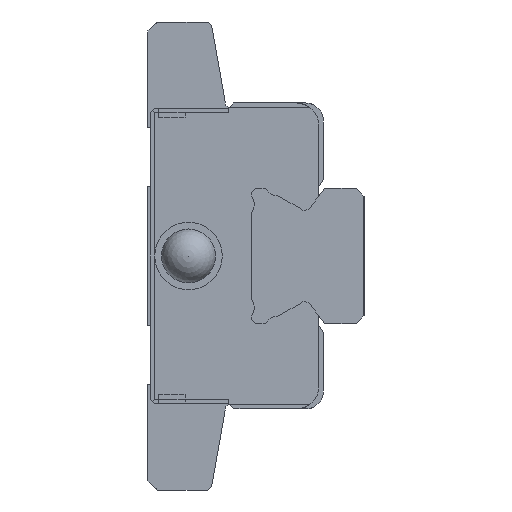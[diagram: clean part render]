
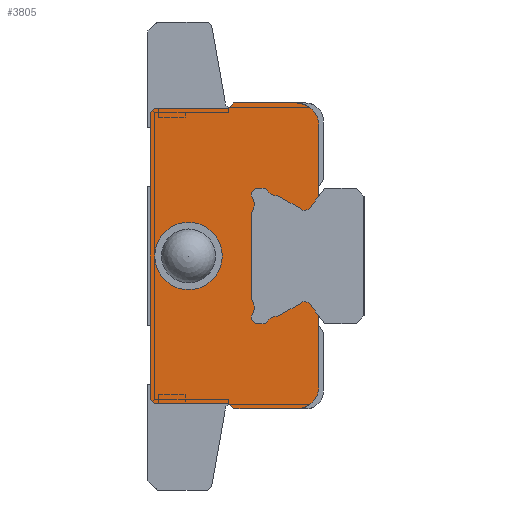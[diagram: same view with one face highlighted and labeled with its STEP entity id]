
A CAD part, left-side view. The second image highlights one B-rep face of the part: STEP entity #3805.
In plain terms, the highlighted planar face has unit normal (-1, 0, 0).
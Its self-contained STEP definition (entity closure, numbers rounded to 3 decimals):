
#51=LINE('',#5633,#407);
#92=LINE('',#5725,#448);
#102=LINE('',#5750,#458);
#128=LINE('',#5800,#484);
#131=LINE('',#5805,#487);
#133=LINE('',#5808,#489);
#152=LINE('',#5864,#508);
#153=LINE('',#5869,#509);
#154=LINE('',#5873,#510);
#155=LINE('',#5875,#511);
#156=LINE('',#5877,#512);
#157=LINE('',#5879,#513);
#158=LINE('',#5883,#514);
#159=LINE('',#5887,#515);
#160=LINE('',#5889,#516);
#161=LINE('',#5891,#517);
#162=LINE('',#5893,#518);
#163=LINE('',#5897,#519);
#164=LINE('',#5901,#520);
#165=LINE('',#5903,#521);
#166=LINE('',#5907,#522);
#167=LINE('',#5909,#523);
#168=LINE('',#5910,#524);
#169=LINE('',#5913,#525);
#407=VECTOR('',#4480,1000.);
#448=VECTOR('',#4545,1000.);
#458=VECTOR('',#4565,1000.);
#484=VECTOR('',#4603,1000.);
#487=VECTOR('',#4608,1000.);
#489=VECTOR('',#4612,1000.);
#508=VECTOR('',#4663,1000.);
#509=VECTOR('',#4666,1000.);
#510=VECTOR('',#4669,1000.);
#511=VECTOR('',#4670,1000.);
#512=VECTOR('',#4671,1000.);
#513=VECTOR('',#4672,1000.);
#514=VECTOR('',#4675,1000.);
#515=VECTOR('',#4678,1000.);
#516=VECTOR('',#4679,1000.);
#517=VECTOR('',#4680,1000.);
#518=VECTOR('',#4681,1000.);
#519=VECTOR('',#4684,1000.);
#520=VECTOR('',#4687,1000.);
#521=VECTOR('',#4688,1000.);
#522=VECTOR('',#4691,1000.);
#523=VECTOR('',#4692,1000.);
#524=VECTOR('',#4693,1000.);
#525=VECTOR('',#4696,1000.);
#796=PLANE('',#4086);
#1158=ORIENTED_EDGE('',*,*,#2176,.T.);
#1159=ORIENTED_EDGE('',*,*,#2177,.F.);
#1160=ORIENTED_EDGE('',*,*,#2178,.T.);
#1161=ORIENTED_EDGE('',*,*,#2179,.F.);
#1162=ORIENTED_EDGE('',*,*,#2180,.T.);
#1163=ORIENTED_EDGE('',*,*,#2181,.F.);
#1164=ORIENTED_EDGE('',*,*,#2182,.F.);
#1165=ORIENTED_EDGE('',*,*,#2183,.F.);
#1166=ORIENTED_EDGE('',*,*,#2184,.F.);
#1167=ORIENTED_EDGE('',*,*,#2185,.T.);
#1168=ORIENTED_EDGE('',*,*,#2186,.F.);
#1169=ORIENTED_EDGE('',*,*,#2187,.T.);
#1170=ORIENTED_EDGE('',*,*,#2188,.F.);
#1171=ORIENTED_EDGE('',*,*,#2189,.F.);
#1172=ORIENTED_EDGE('',*,*,#2190,.F.);
#1173=ORIENTED_EDGE('',*,*,#2191,.F.);
#1174=ORIENTED_EDGE('',*,*,#2192,.T.);
#1175=ORIENTED_EDGE('',*,*,#2193,.F.);
#1176=ORIENTED_EDGE('',*,*,#2194,.T.);
#1177=ORIENTED_EDGE('',*,*,#2195,.F.);
#1178=ORIENTED_EDGE('',*,*,#2196,.F.);
#1179=ORIENTED_EDGE('',*,*,#2197,.F.);
#1180=ORIENTED_EDGE('',*,*,#2198,.F.);
#1181=ORIENTED_EDGE('',*,*,#2199,.F.);
#1182=ORIENTED_EDGE('',*,*,#2118,.F.);
#1183=ORIENTED_EDGE('',*,*,#2149,.F.);
#1184=ORIENTED_EDGE('',*,*,#2144,.F.);
#1185=ORIENTED_EDGE('',*,*,#2147,.F.);
#1186=ORIENTED_EDGE('',*,*,#2106,.F.);
#1187=ORIENTED_EDGE('',*,*,#2200,.F.);
#1188=ORIENTED_EDGE('',*,*,#2063,.F.);
#1189=ORIENTED_EDGE('',*,*,#2201,.F.);
#1190=ORIENTED_EDGE('',*,*,#2202,.F.);
#2063=EDGE_CURVE('',#2589,#2587,#51,.T.);
#2106=EDGE_CURVE('',#2628,#2629,#92,.T.);
#2118=EDGE_CURVE('',#2638,#2639,#102,.T.);
#2144=EDGE_CURVE('',#2656,#2657,#128,.T.);
#2147=EDGE_CURVE('',#2629,#2656,#131,.T.);
#2149=EDGE_CURVE('',#2657,#2638,#133,.T.);
#2176=EDGE_CURVE('',#2678,#2678,#2960,.T.);
#2177=EDGE_CURVE('',#2679,#2680,#152,.T.);
#2178=EDGE_CURVE('',#2679,#2681,#2961,.F.);
#2179=EDGE_CURVE('',#2682,#2681,#153,.T.);
#2180=EDGE_CURVE('',#2682,#2683,#2962,.F.);
#2181=EDGE_CURVE('',#2684,#2683,#154,.T.);
#2182=EDGE_CURVE('',#2685,#2684,#155,.T.);
#2183=EDGE_CURVE('',#2686,#2685,#156,.T.);
#2184=EDGE_CURVE('',#2687,#2686,#157,.T.);
#2185=EDGE_CURVE('',#2687,#2688,#2963,.F.);
#2186=EDGE_CURVE('',#2689,#2688,#158,.T.);
#2187=EDGE_CURVE('',#2689,#2690,#2964,.F.);
#2188=EDGE_CURVE('',#2691,#2690,#159,.T.);
#2189=EDGE_CURVE('',#2692,#2691,#160,.T.);
#2190=EDGE_CURVE('',#2693,#2692,#161,.T.);
#2191=EDGE_CURVE('',#2694,#2693,#162,.T.);
#2192=EDGE_CURVE('',#2694,#2695,#2965,.F.);
#2193=EDGE_CURVE('',#2696,#2695,#163,.T.);
#2194=EDGE_CURVE('',#2696,#2697,#2966,.F.);
#2195=EDGE_CURVE('',#2698,#2697,#164,.T.);
#2196=EDGE_CURVE('',#2699,#2698,#165,.T.);
#2197=EDGE_CURVE('',#2700,#2699,#2967,.T.);
#2198=EDGE_CURVE('',#2701,#2700,#166,.T.);
#2199=EDGE_CURVE('',#2639,#2701,#167,.T.);
#2200=EDGE_CURVE('',#2587,#2628,#168,.T.);
#2201=EDGE_CURVE('',#2702,#2589,#2968,.T.);
#2202=EDGE_CURVE('',#2680,#2702,#169,.T.);
#2587=VERTEX_POINT('',#5628);
#2589=VERTEX_POINT('',#5632);
#2628=VERTEX_POINT('',#5724);
#2629=VERTEX_POINT('',#5726);
#2638=VERTEX_POINT('',#5749);
#2639=VERTEX_POINT('',#5751);
#2656=VERTEX_POINT('',#5799);
#2657=VERTEX_POINT('',#5801);
#2678=VERTEX_POINT('',#5863);
#2679=VERTEX_POINT('',#5865);
#2680=VERTEX_POINT('',#5866);
#2681=VERTEX_POINT('',#5868);
#2682=VERTEX_POINT('',#5870);
#2683=VERTEX_POINT('',#5872);
#2684=VERTEX_POINT('',#5874);
#2685=VERTEX_POINT('',#5876);
#2686=VERTEX_POINT('',#5878);
#2687=VERTEX_POINT('',#5880);
#2688=VERTEX_POINT('',#5882);
#2689=VERTEX_POINT('',#5884);
#2690=VERTEX_POINT('',#5886);
#2691=VERTEX_POINT('',#5888);
#2692=VERTEX_POINT('',#5890);
#2693=VERTEX_POINT('',#5892);
#2694=VERTEX_POINT('',#5894);
#2695=VERTEX_POINT('',#5896);
#2696=VERTEX_POINT('',#5898);
#2697=VERTEX_POINT('',#5900);
#2698=VERTEX_POINT('',#5902);
#2699=VERTEX_POINT('',#5904);
#2700=VERTEX_POINT('',#5906);
#2701=VERTEX_POINT('',#5908);
#2702=VERTEX_POINT('',#5912);
#2960=CIRCLE('',#4087,2.);
#2961=CIRCLE('',#4088,0.7);
#2962=CIRCLE('',#4089,1.45);
#2963=CIRCLE('',#4090,1.45);
#2964=CIRCLE('',#4091,1.45);
#2965=CIRCLE('',#4092,1.45);
#2966=CIRCLE('',#4093,0.7);
#2967=CIRCLE('',#4094,2.5);
#2968=CIRCLE('',#4095,2.5);
#3146=EDGE_LOOP('',(#1158));
#3147=EDGE_LOOP('',(#1159,#1160,#1161,#1162,#1163,#1164,#1165,#1166,#1167,
#1168,#1169,#1170,#1171,#1172,#1173,#1174,#1175,#1176,#1177,#1178,#1179,
#1180,#1181,#1182,#1183,#1184,#1185,#1186,#1187,#1188,#1189,#1190));
#3480=FACE_BOUND('',#3146,.T.);
#3481=FACE_BOUND('',#3147,.T.);
#3805=ADVANCED_FACE('',(#3480,#3481),#796,.F.);
#4086=AXIS2_PLACEMENT_3D('',#5861,#4659,#4660);
#4087=AXIS2_PLACEMENT_3D('',#5862,#4661,#4662);
#4088=AXIS2_PLACEMENT_3D('',#5867,#4664,#4665);
#4089=AXIS2_PLACEMENT_3D('',#5871,#4667,#4668);
#4090=AXIS2_PLACEMENT_3D('',#5881,#4673,#4674);
#4091=AXIS2_PLACEMENT_3D('',#5885,#4676,#4677);
#4092=AXIS2_PLACEMENT_3D('',#5895,#4682,#4683);
#4093=AXIS2_PLACEMENT_3D('',#5899,#4685,#4686);
#4094=AXIS2_PLACEMENT_3D('',#5905,#4689,#4690);
#4095=AXIS2_PLACEMENT_3D('',#5911,#4694,#4695);
#4480=DIRECTION('',(0.,1.,0.));
#4545=DIRECTION('',(0.,1.,0.));
#4565=DIRECTION('',(0.,-1.,0.));
#4603=DIRECTION('',(0.,0.,1.));
#4608=DIRECTION('',(0.,0.707,0.707));
#4612=DIRECTION('',(0.,-0.707,0.707));
#4659=DIRECTION('',(1.,0.,0.));
#4660=DIRECTION('',(0.,0.,-1.));
#4661=DIRECTION('',(1.,0.,0.));
#4662=DIRECTION('',(0.,0.,-1.));
#4663=DIRECTION('',(0.,-0.607,-0.794));
#4664=DIRECTION('',(1.,0.,0.));
#4665=DIRECTION('',(0.,0.,-1.));
#4666=DIRECTION('',(0.,-0.869,0.495));
#4667=DIRECTION('',(1.,0.,0.));
#4668=DIRECTION('',(0.,0.,-1.));
#4669=DIRECTION('',(0.,-0.869,0.495));
#4670=DIRECTION('',(0.,-1.,0.));
#4671=DIRECTION('',(0.,-0.707,-0.707));
#4672=DIRECTION('',(0.,0.,-1.));
#4673=DIRECTION('',(1.,0.,0.));
#4674=DIRECTION('',(0.,0.,-1.));
#4675=DIRECTION('',(0.,0.,-1.));
#4676=DIRECTION('',(1.,0.,0.));
#4677=DIRECTION('',(0.,0.,-1.));
#4678=DIRECTION('',(0.,0.,-1.));
#4679=DIRECTION('',(0.,0.707,-0.707));
#4680=DIRECTION('',(0.,1.,0.));
#4681=DIRECTION('',(0.,0.869,0.495));
#4682=DIRECTION('',(1.,0.,0.));
#4683=DIRECTION('',(0.,0.,-1.));
#4684=DIRECTION('',(0.,0.869,0.495));
#4685=DIRECTION('',(1.,0.,0.));
#4686=DIRECTION('',(0.,0.,-1.));
#4687=DIRECTION('',(0.,0.607,-0.794));
#4688=DIRECTION('',(0.,0.,-1.));
#4689=DIRECTION('',(1.,0.,0.));
#4690=DIRECTION('',(0.,0.,-1.));
#4691=DIRECTION('',(0.,-1.,0.));
#4692=DIRECTION('',(0.,-0.707,0.707));
#4693=DIRECTION('',(0.,0.707,0.707));
#4694=DIRECTION('',(1.,0.,0.));
#4695=DIRECTION('',(0.,0.,-1.));
#4696=DIRECTION('',(0.,0.,-1.));
#5628=CARTESIAN_POINT('',(-20.15,9.95,-17.));
#5632=CARTESIAN_POINT('',(-20.15,3.,-17.));
#5633=CARTESIAN_POINT('',(-20.15,3.,-17.));
#5724=CARTESIAN_POINT('',(-20.15,10.55,-16.4));
#5725=CARTESIAN_POINT('',(-20.15,10.55,-16.4));
#5726=CARTESIAN_POINT('',(-20.15,18.75,-16.4));
#5749=CARTESIAN_POINT('',(-20.15,18.75,16.4));
#5750=CARTESIAN_POINT('',(-20.15,18.75,16.4));
#5751=CARTESIAN_POINT('',(-20.15,10.55,16.4));
#5799=CARTESIAN_POINT('',(-20.15,19.25,-15.9));
#5800=CARTESIAN_POINT('',(-20.15,19.25,-15.9));
#5801=CARTESIAN_POINT('',(-20.15,19.25,15.9));
#5805=CARTESIAN_POINT('',(-20.15,18.75,-16.4));
#5808=CARTESIAN_POINT('',(-20.15,19.25,15.9));
#5861=CARTESIAN_POINT('',(-20.15,3.,14.5));
#5862=CARTESIAN_POINT('',(-20.15,15.,0.));
#5863=CARTESIAN_POINT('',(-20.15,15.,-2.));
#5864=CARTESIAN_POINT('',(-20.15,11.643,7.893));
#5865=CARTESIAN_POINT('',(-20.15,1.47,-5.416));
#5866=CARTESIAN_POINT('',(-20.15,0.5,-6.685));
#5867=CARTESIAN_POINT('',(-20.15,2.076,-5.766));
#5868=CARTESIAN_POINT('',(-20.15,2.575,-5.275));
#5869=CARTESIAN_POINT('',(-20.15,-5.611,-0.609));
#5870=CARTESIAN_POINT('',(-20.15,5.001,-6.658));
#5871=CARTESIAN_POINT('',(-20.15,5.045,-8.107));
#5872=CARTESIAN_POINT('',(-20.15,6.314,-7.406));
#5873=CARTESIAN_POINT('',(-20.15,-5.611,-0.609));
#5874=CARTESIAN_POINT('',(-20.15,6.479,-7.5));
#5875=CARTESIAN_POINT('',(-20.15,3.,-7.5));
#5876=CARTESIAN_POINT('',(-20.15,7.55,-7.5));
#5877=CARTESIAN_POINT('',(-20.15,16.275,1.225));
#5878=CARTESIAN_POINT('',(-20.15,8.,-7.05));
#5879=CARTESIAN_POINT('',(-20.15,8.,14.5));
#5880=CARTESIAN_POINT('',(-20.15,8.,-6.666));
#5881=CARTESIAN_POINT('',(-20.15,9.128,-5.755));
#5882=CARTESIAN_POINT('',(-20.15,8.,-4.844));
#5883=CARTESIAN_POINT('',(-20.15,8.,14.5));
#5884=CARTESIAN_POINT('',(-20.15,8.,4.844));
#5885=CARTESIAN_POINT('',(-20.15,9.128,5.755));
#5886=CARTESIAN_POINT('',(-20.15,8.,6.666));
#5887=CARTESIAN_POINT('',(-20.15,8.,14.5));
#5888=CARTESIAN_POINT('',(-20.15,8.,7.05));
#5889=CARTESIAN_POINT('',(-20.15,1.775,13.275));
#5890=CARTESIAN_POINT('',(-20.15,7.55,7.5));
#5891=CARTESIAN_POINT('',(-20.15,3.,7.5));
#5892=CARTESIAN_POINT('',(-20.15,6.479,7.5));
#5893=CARTESIAN_POINT('',(-20.15,6.864,7.72));
#5894=CARTESIAN_POINT('',(-20.15,6.314,7.406));
#5895=CARTESIAN_POINT('',(-20.15,5.045,8.107));
#5896=CARTESIAN_POINT('',(-20.15,5.001,6.658));
#5897=CARTESIAN_POINT('',(-20.15,6.864,7.72));
#5898=CARTESIAN_POINT('',(-20.15,2.575,5.275));
#5899=CARTESIAN_POINT('',(-20.15,2.076,5.766));
#5900=CARTESIAN_POINT('',(-20.15,1.47,5.416));
#5901=CARTESIAN_POINT('',(-20.15,-2.349,10.411));
#5902=CARTESIAN_POINT('',(-20.15,0.5,6.685));
#5903=CARTESIAN_POINT('',(-20.15,0.5,14.5));
#5904=CARTESIAN_POINT('',(-20.15,0.5,14.5));
#5905=CARTESIAN_POINT('',(-20.15,3.,14.5));
#5906=CARTESIAN_POINT('',(-20.15,3.,17.));
#5907=CARTESIAN_POINT('',(-20.15,9.95,17.));
#5908=CARTESIAN_POINT('',(-20.15,9.95,17.));
#5909=CARTESIAN_POINT('',(-20.15,10.55,16.4));
#5910=CARTESIAN_POINT('',(-20.15,9.95,-17.));
#5911=CARTESIAN_POINT('',(-20.15,3.,-14.5));
#5912=CARTESIAN_POINT('',(-20.15,0.5,-14.5));
#5913=CARTESIAN_POINT('',(-20.15,0.5,14.5));
